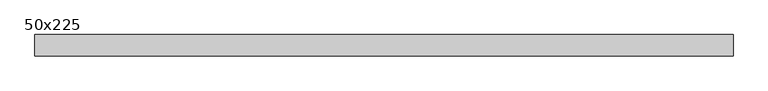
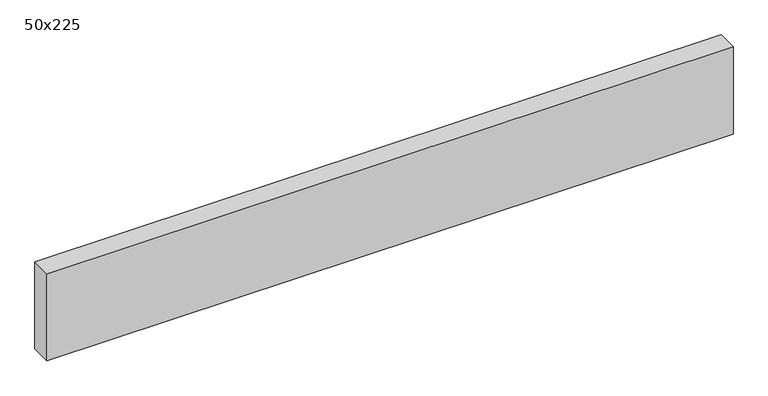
"""IFC4 building model written with IfcOpenShell, lengths in millimetres: beam geometry, Graded Timber : 50x225."""

from ifc_helpers import new_model, si_unit, frame, origin, place, context, project, spatial, polyline, outline, extrude, source, transform, mapped, element, save


def beam_50x225_024e5c33(model_context):
    return source(origin(), model_context, "Body", "SweptSolid", [
        extrude(outline(polyline([(873.0, 25.0), (873.0, -25.0), (-766.1998222, -25.0), (-766.1998222, 25.0), (873.0, 25.0)])), frame((0.0, 0.0, -110.0), z_axis=(0.0, 0.0, 1.0), x_axis=(1.0, 0.0, 0.0)), (0.0, 0.0, 1.0), 220.0),
    ])


if __name__ == "__main__":
    model = new_model("IFC4")
    model_context = context("Model", 3, world=origin())
    ifc_project = project(units=[si_unit("LENGTHUNIT", "METRE", prefix="MILLI")], contexts=[model_context])
    site = spatial("IfcSite", under=ifc_project)
    building = spatial("IfcBuilding", under=site)
    placement = place(None, origin())
    beam_50x225_shape = beam_50x225_024e5c33(model_context)
    element("IfcBeam", 1, ObjectType="Graded Timber : 50x225", at=placement, inside=building, context=model_context, shape_type="MappedRepresentation", body=[
        mapped(beam_50x225_shape, transform((0.0, 0.0, 0.0), x_axis=(1.0, 0.0, 0.0), y_axis=(0.0, 1.0, 0.0), z_axis=(0.0, 0.0, 1.0))),
    ])
    save(model, "model.ifc")
